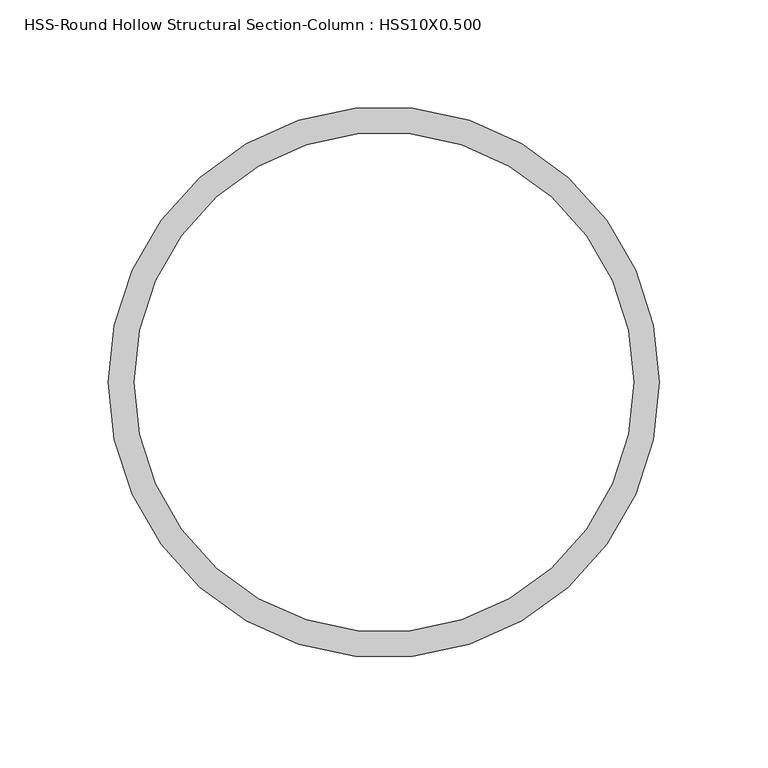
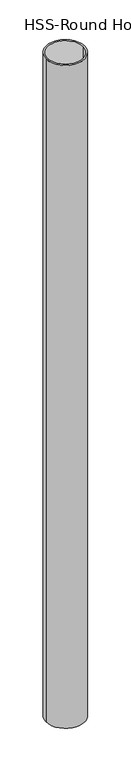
"""IFC4 building model written with IfcOpenShell, lengths in millimetres: column geometry, HSS-Round Hollow Structural Section-Column : HSS10X0.500."""

from ifc_helpers import new_model, si_unit, point, frame, origin, origin_2d, place, context, project, spatial, circle_curve, trimmed, segment, composite_curve, outline, extrude, source, transform, mapped, element, save


def hss_round_hollow_structural_section_column_hss10x0_500_8cda41c0(model_context):
    return source(origin(), model_context, "Body", "SweptSolid", [
        extrude(outline(composite_curve([segment(trimmed(circle_curve(origin_2d(), 127.0), [point((-127.0, 0.0))], [point((127.0, 0.0))], False, "CARTESIAN"), True, "CONTINUOUS"), segment(trimmed(circle_curve(origin_2d(), 127.0), [point((127.0, 0.0))], [point((-127.0, 0.0))], False, "CARTESIAN"), True, "CONTINUOUS")], self_intersect=False), holes=[composite_curve([segment(trimmed(circle_curve(origin_2d(), 115.189), [point((-115.189, 0.0))], [point((115.189, 0.0))], True, "CARTESIAN"), True, "CONTINUOUS"), segment(trimmed(circle_curve(origin_2d(), 115.189), [point((115.189, 0.0))], [point((-115.189, 0.0))], True, "CARTESIAN"), True, "CONTINUOUS")], self_intersect=False)]), frame((0.0, 0.0, 10541.0), z_axis=(0.0, 0.0, 1.0), x_axis=(1.0, 0.0, 0.0)), (0.0, 0.0, 1.0), 4572.0),
    ])


if __name__ == "__main__":
    model = new_model("IFC4")
    model_context = context("Model", 3, world=origin())
    ifc_project = project(units=[si_unit("LENGTHUNIT", "METRE", prefix="MILLI")], contexts=[model_context])
    site = spatial("IfcSite", under=ifc_project)
    building = spatial("IfcBuilding", under=site)
    placement = place(None, origin())
    hss_round_hollow_structural_section_column_hss10x0_500_shape = hss_round_hollow_structural_section_column_hss10x0_500_8cda41c0(model_context)
    element("IfcColumn", 1, ObjectType="HSS-Round Hollow Structural Section-Column : HSS10X0.500", at=placement, inside=building, context=model_context, shape_type="MappedRepresentation", body=[
        mapped(hss_round_hollow_structural_section_column_hss10x0_500_shape, transform((0.0, 0.0, 0.0), x_axis=(1.0, 0.0, 0.0), y_axis=(0.0, 1.0, 0.0), z_axis=(0.0, 0.0, 1.0))),
    ])
    save(model, "model.ifc")
